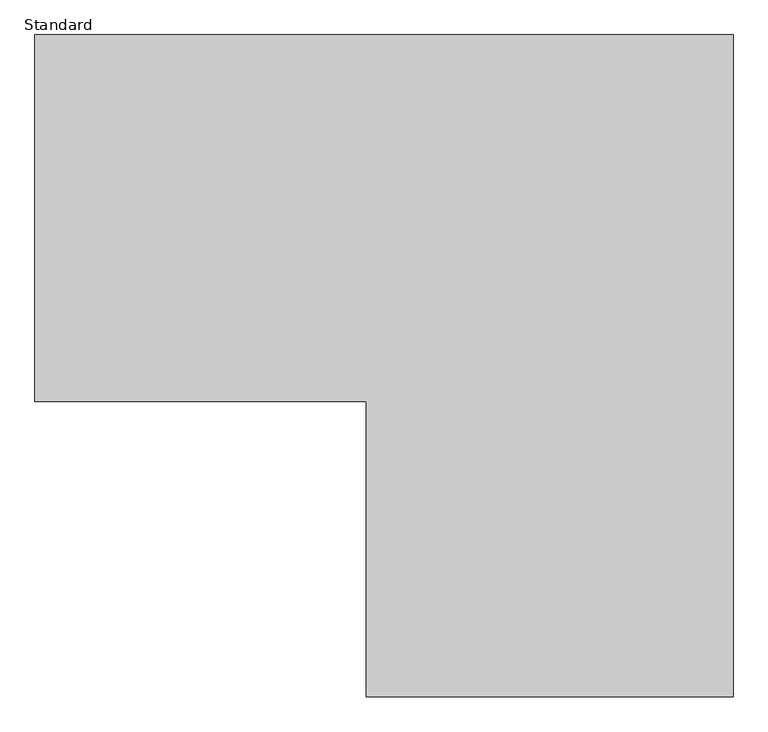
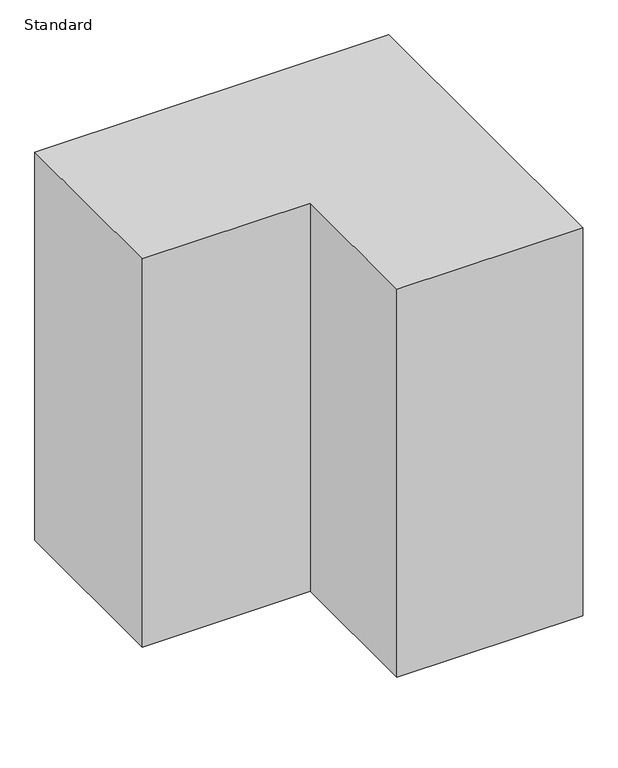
"""IFC4 building model written with IfcOpenShell, lengths in millimetres: proxy geometry, Clearance-Door-Circulation-AS1428.1-2021-Duracube : Standard."""

from ifc_helpers import new_model, si_unit, origin, origin_with_axes, place, context, project, spatial, polyline, outline, extrude, source, transform, mapped, element, save


def standard_9fa9c6f0(model_context):
    return source(origin(), model_context, "Body", "SweptSolid", [
        extrude(outline(polyline([(450.0, 812.5), (450.0, -812.5), (-450.0, -812.5), (-450.0, -87.5), (-1262.5, -87.5), (-1262.5, 812.5), (450.0, 812.5)])), origin_with_axes(), (0.0, 0.0, 1.0), 1985.0),
    ])


if __name__ == "__main__":
    model = new_model("IFC4")
    model_context = context("Model", 3, world=origin())
    ifc_project = project(units=[si_unit("LENGTHUNIT", "METRE", prefix="MILLI")], contexts=[model_context])
    site = spatial("IfcSite", under=ifc_project)
    building = spatial("IfcBuilding", under=site)
    placement = place(None, origin())
    standard_shape = standard_9fa9c6f0(model_context)
    element("IfcBuildingElementProxy", 1, Name="Clearance-Door-Circulation-AS1428.1-2021-Duracube : Standard", ObjectType="Clearance-Door-Circulation-AS1428.1-2021-Duracube : Standard", at=placement, inside=building, context=model_context, shape_type="MappedRepresentation", body=[
        mapped(standard_shape, transform((0.0, 0.0, 0.0), x_axis=(1.0, 0.0, 0.0), y_axis=(0.0, 1.0, 0.0), z_axis=(0.0, 0.0, 1.0))),
    ])
    save(model, "model.ifc")
